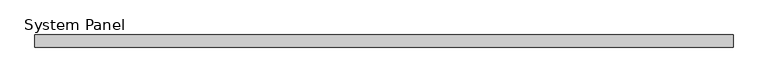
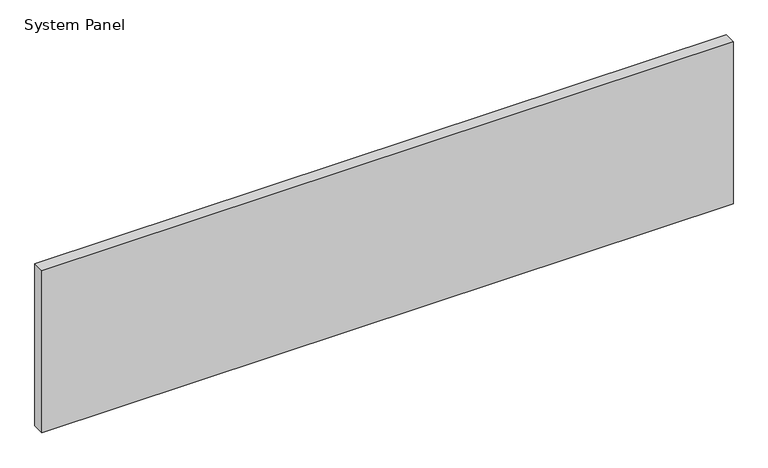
"""IFC4 building model written with IfcOpenShell, lengths in millimetres: plate geometry, System Panel : Glazed - ACMP (AL-1)."""

import ifcopenshell
import ifcopenshell.guid

model = None  # the IFC model being written
_history = None  # IfcOwnerHistory: only IFC2X3 demands one
_inside = {}  # id of a spatial element -> (the spatial element, [elements in it])
_under = {}  # id of a project, library or spatial element -> (it, [spatial elements below it])
_declared = {}  # id of a project -> (the project, [libraries it declares])
_typed = {}  # id of a type object -> (the type object, [elements of that type])
_made_of = {}  # id of a material, layer set ... -> (it, [elements and type objects made of it])


def new_model(schema):
    """Start an empty IFC model of exactly this schema.

    Asked for "IFC4X3", IfcOpenShell would pick the latest addendum, in which some entities
    have other attributes; the version numbers below select the first issue.
    IFC2X3 requires an IfcOwnerHistory on every rooted entity: one is made here for all.
    """
    global model, _history
    if schema == "IFC4X3":
        model = ifcopenshell.file(schema_version=(4, 3, 0, 0))
    else:
        model = ifcopenshell.file(schema=schema)
    _inside.clear()
    _under.clear()
    _declared.clear()
    _typed.clear()
    _made_of.clear()
    _history = None
    if model.schema == "IFC2X3":
        org = make("IfcOrganization", Name="unknown")
        user = make(
            "IfcPersonAndOrganization",
            ThePerson=make("IfcPerson", FamilyName="unknown"),
            TheOrganization=org,
        )
        app = make(
            "IfcApplication",
            ApplicationDeveloper=org,
            Version="unknown",
            ApplicationFullName="unknown",
            ApplicationIdentifier="unknown",
        )
        _history = make(
            "IfcOwnerHistory",
            OwningUser=user,
            OwningApplication=app,
            ChangeAction="ADDED",
            CreationDate=0,
        )
    return model


def make(cls, **values):
    """One entity of the class cls with the attributes given. An attribute that is None is left unset."""
    return model.create_entity(
        cls, **{name: value for name, value in values.items() if value is not None}
    )


def rooted(cls, **values):
    """An entity with a GlobalId (a new one), such as an element, a storey or a relation."""
    return make(cls, GlobalId=ifcopenshell.guid.new(), OwnerHistory=_history, **values)


def si_unit(unit_type, name, prefix=None):
    """IfcSIUnit, for example si_unit("LENGTHUNIT", "METRE", prefix="MILLI")."""
    return make("IfcSIUnit", UnitType=unit_type, Prefix=prefix, Name=name)


def assignment(units):
    """IfcUnitAssignment: the units of a project."""
    return None if units is None else make("IfcUnitAssignment", Units=units)


def point(xyz):
    """IfcCartesianPoint."""
    return None if xyz is None else make("IfcCartesianPoint", Coordinates=xyz)


def direction(xyz):
    """IfcDirection."""
    return None if xyz is None else make("IfcDirection", DirectionRatios=xyz)


def frame(location, z_axis=None, x_axis=None):
    """IfcAxis2Placement3D, a coordinate frame: its origin and axes. An axis left out is left unset."""
    return make(
        "IfcAxis2Placement3D",
        Location=point(location),
        Axis=direction(z_axis),
        RefDirection=direction(x_axis),
    )


def origin():
    """The frame at (0, 0, 0) with its axes left unset."""
    return frame((0.0, 0.0, 0.0))


def origin_with_axes():
    """The frame at (0, 0, 0) with the z axis (0, 0, 1) and the x axis (1, 0, 0) written out."""
    return frame((0.0, 0.0, 0.0), z_axis=(0.0, 0.0, 1.0), x_axis=(1.0, 0.0, 0.0))


def place(relative_to, where):
    """IfcLocalPlacement: puts the frame where relative to a parent placement (None: the world)."""
    return make(
        "IfcLocalPlacement", PlacementRelTo=relative_to, RelativePlacement=where
    )


def context(
    kind, dimensions, precision=None, world=None, true_north=None, identifier=None
):
    """IfcGeometricRepresentationContext, for example the 3D "Model" context."""
    return make(
        "IfcGeometricRepresentationContext",
        ContextIdentifier=identifier,
        ContextType=kind,
        CoordinateSpaceDimension=dimensions,
        Precision=precision,
        WorldCoordinateSystem=world,
        TrueNorth=true_north,
    )


def project(units=None, contexts=None):
    """IfcProject with its units and contexts."""
    return rooted(
        "IfcProject",
        Name="project",
        RepresentationContexts=contexts,
        UnitsInContext=assignment(units),
    )


def spatial(cls, under=None, at=None, **own):
    """A site, building, storey or space (cls), placed at a placement, below another one or the project."""
    s = rooted(cls, ObjectPlacement=at, **own)
    if under is not None:
        _under.setdefault(under.id(), (under, []))[1].append(s)
    return s


def polyline(points):
    """IfcPolyline through the points."""
    return make("IfcPolyline", Points=[point(p) for p in points])


def outline(outer, holes=None, kind="AREA"):
    """IfcArbitraryClosedProfileDef: a profile drawn as a closed curve; with holes, ...WithVoids."""
    if holes is None:
        return make("IfcArbitraryClosedProfileDef", ProfileType=kind, OuterCurve=outer)
    return make(
        "IfcArbitraryProfileDefWithVoids",
        ProfileType=kind,
        OuterCurve=outer,
        InnerCurves=holes,
    )


def extrude(swept, where, along, depth):
    """IfcExtrudedAreaSolid: the profile swept, set in the frame where, extruded along a direction by depth."""
    return make(
        "IfcExtrudedAreaSolid",
        SweptArea=swept,
        Position=where,
        ExtrudedDirection=direction(along),
        Depth=depth,
    )


def shape(context_of_items, identifier, shape_type, items):
    """IfcShapeRepresentation: the items that make up one representation, for example the "Body"."""
    return make(
        "IfcShapeRepresentation",
        ContextOfItems=context_of_items,
        RepresentationIdentifier=identifier,
        RepresentationType=shape_type,
        Items=items,
    )


def source(mapping_origin, context_of_items, identifier, shape_type, items):
    """IfcRepresentationMap: a shape defined once, which mapped items show again and again."""
    return make(
        "IfcRepresentationMap",
        MappingOrigin=mapping_origin,
        MappedRepresentation=shape(context_of_items, identifier, shape_type, items),
    )


def transform(
    local_origin,
    x_axis=None,
    y_axis=None,
    z_axis=None,
    scale=None,
    scale2=None,
    scale3=None,
    uniform=True,
):
    """IfcCartesianTransformationOperator3D, or its non-uniform kind. x_axis, y_axis, z_axis: its Axis1, 2, 3."""
    if uniform:
        return make(
            "IfcCartesianTransformationOperator3D",
            Axis1=direction(x_axis),
            Axis2=direction(y_axis),
            LocalOrigin=point(local_origin),
            Scale=scale,
            Axis3=direction(z_axis),
        )
    return make(
        "IfcCartesianTransformationOperator3DnonUniform",
        Axis1=direction(x_axis),
        Axis2=direction(y_axis),
        LocalOrigin=point(local_origin),
        Scale=scale,
        Axis3=direction(z_axis),
        Scale2=scale2,
        Scale3=scale3,
    )


def mapped(mapping_source, mapping_target):
    """IfcMappedItem: shows the shape of a source again, moved by a transform."""
    return make(
        "IfcMappedItem", MappingSource=mapping_source, MappingTarget=mapping_target
    )


def made_of(thing, what):
    """Note that an element or type object is made of a material, layer set ...; save() writes the relation."""
    if what is not None:
        _made_of.setdefault(what.id(), (what, []))[1].append(thing)
    return thing


def element(
    cls,
    number,
    at=None,
    inside=None,
    cuts=None,
    type_object=None,
    material=None,
    context=None,
    identifier="Body",
    shape_type=None,
    held_by="IfcProductDefinitionShape",
    body=None,
    shapes=None,
    **own,
):
    """One element of the class cls, such as IfcWall. Its Tag is "e" and its number.

    at: its placement. inside: the storey or other place that contains it. cuts: it is an
    opening in that element (IfcRelVoidsElement). A single representation is given by context,
    identifier, shape_type and body (its items); several are given by shapes. held_by: the class
    of the entity that holds the representations. save() writes the other relations.
    """
    e = rooted(cls, Tag="e%d" % number, ObjectPlacement=at, **own)
    if body is not None:
        shapes = [shape(context, identifier, shape_type, body)]
    if shapes is not None:
        e.Representation = make(held_by, Representations=shapes)
    if inside is not None:
        _inside.setdefault(inside.id(), (inside, []))[1].append(e)
    if cuts is not None:
        rooted(
            "IfcRelVoidsElement", RelatingBuildingElement=cuts, RelatedOpeningElement=e
        )
    if type_object is not None:
        _typed.setdefault(type_object.id(), (type_object, []))[1].append(e)
    return made_of(e, material)


def aggregate(whole, parts):
    """IfcRelAggregates: a whole, such as a stair, and the parts it consists of."""
    return rooted("IfcRelAggregates", RelatingObject=whole, RelatedObjects=parts)


def save(model, path):
    """Write the relations noted so far, then the file.

    IfcRelAggregates (storeys below a building ...), IfcRelContainedInSpatialStructure (elements
    in a storey), IfcRelDefinesByType, IfcRelAssociatesMaterial and IfcRelDeclares: one each for
    every whole, place, type object, material and project.
    """
    for whole, parts in _under.values():
        aggregate(whole, parts)
    for where, things in _inside.values():
        rooted(
            "IfcRelContainedInSpatialStructure",
            RelatedElements=things,
            RelatingStructure=where,
        )
    for kind, things in _typed.values():
        rooted("IfcRelDefinesByType", RelatedObjects=things, RelatingType=kind)
    for what, things in _made_of.values():
        rooted("IfcRelAssociatesMaterial", RelatedObjects=things, RelatingMaterial=what)
    for by, libraries in _declared.values():
        rooted("IfcRelDeclares", RelatingContext=by, RelatedDefinitions=libraries)
    model.write(path)


def system_panel_d5fb520c(model_context):
    return source(origin(), model_context, "Body", "SweptSolid", [
        extrude(outline(polyline([(730.25, 0.0), (-730.25, 0.0), (-730.25, 25.4), (730.25, 25.4), (730.25, 0.0)])), origin_with_axes(), (0.0, 0.0, 1.0), 361.95),
    ])


if __name__ == "__main__":
    model = new_model("IFC4")
    model_context = context("Model", 3, world=origin())
    ifc_project = project(units=[si_unit("LENGTHUNIT", "METRE", prefix="MILLI")], contexts=[model_context])
    site = spatial("IfcSite", under=ifc_project)
    building = spatial("IfcBuilding", under=site)
    placement = place(None, origin())
    system_panel_shape = system_panel_d5fb520c(model_context)
    element("IfcPlate", 1, ObjectType="System Panel : Glazed - ACMP (AL-1)", at=placement, inside=building, context=model_context, shape_type="MappedRepresentation", body=[
        mapped(system_panel_shape, transform((0.0, 0.0, 0.0), x_axis=(1.0, 0.0, 0.0), y_axis=(0.0, 1.0, 0.0), z_axis=(0.0, 0.0, 1.0))),
    ])
    save(model, "model.ifc")
